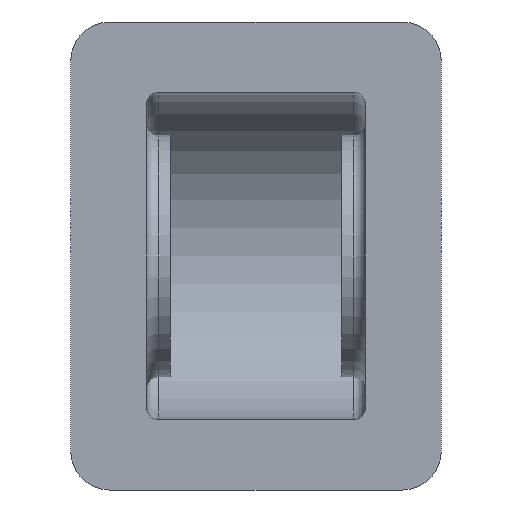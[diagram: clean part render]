
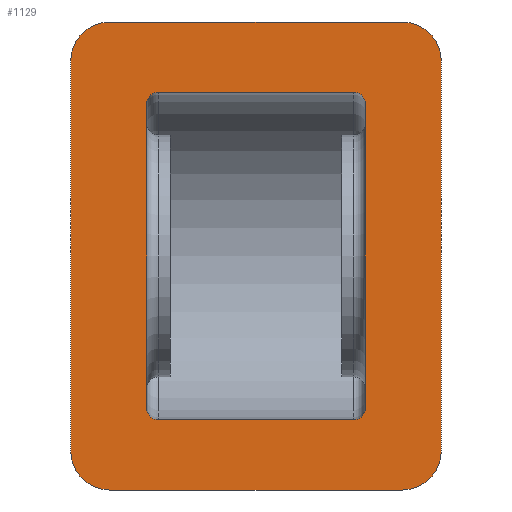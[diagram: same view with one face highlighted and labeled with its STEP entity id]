
A CAD part, front view. The second image highlights one B-rep face of the part: STEP entity #1129.
In plain terms, the highlighted planar face has unit normal (0, -1, 0).
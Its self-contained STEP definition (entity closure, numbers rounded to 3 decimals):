
#16=LINE('',#1791,#68);
#20=LINE('',#1811,#72);
#30=LINE('',#1864,#82);
#34=LINE('',#1873,#86);
#52=LINE('',#1993,#104);
#53=LINE('',#1997,#105);
#54=LINE('',#2002,#106);
#55=LINE('',#2007,#107);
#68=VECTOR('',#1406,78.);
#72=VECTOR('',#1426,78.);
#82=VECTOR('',#1486,75.);
#86=VECTOR('',#1496,100.);
#104=VECTOR('',#1640,75.);
#105=VECTOR('',#1643,100.);
#106=VECTOR('',#1648,50.);
#107=VECTOR('',#1653,50.);
#131=PLANE('',#1289);
#188=FACE_BOUND('',#409,.T.);
#293=FACE_OUTER_BOUND('',#408,.T.);
#408=EDGE_LOOP('',(#961,#962,#963,#964,#965,#966,#967,#968));
#409=EDGE_LOOP('',(#969,#970,#971,#972,#973,#974,#975,#976));
#477=CIRCLE('',#1225,10.);
#478=CIRCLE('',#1228,10.);
#513=CIRCLE('',#1290,10.);
#514=CIRCLE('',#1291,10.);
#515=CIRCLE('',#1292,3.);
#516=CIRCLE('',#1293,3.);
#517=CIRCLE('',#1294,3.);
#518=CIRCLE('',#1295,3.);
#549=VERTEX_POINT('',#1788);
#550=VERTEX_POINT('',#1790);
#555=VERTEX_POINT('',#1804);
#558=VERTEX_POINT('',#1809);
#575=VERTEX_POINT('',#1861);
#576=VERTEX_POINT('',#1863);
#577=VERTEX_POINT('',#1867);
#578=VERTEX_POINT('',#1871);
#579=VERTEX_POINT('',#1875);
#617=VERTEX_POINT('',#1992);
#618=VERTEX_POINT('',#1994);
#619=VERTEX_POINT('',#1996);
#620=VERTEX_POINT('',#1999);
#621=VERTEX_POINT('',#2001);
#622=VERTEX_POINT('',#2004);
#623=VERTEX_POINT('',#2006);
#649=EDGE_CURVE('',#550,#549,#16,.T.);
#658=EDGE_CURVE('',#555,#558,#20,.T.);
#684=EDGE_CURVE('',#575,#576,#30,.T.);
#687=EDGE_CURVE('',#577,#575,#477,.T.);
#689=EDGE_CURVE('',#578,#577,#34,.T.);
#691=EDGE_CURVE('',#579,#578,#478,.T.);
#742=EDGE_CURVE('',#617,#579,#52,.T.);
#743=EDGE_CURVE('',#618,#617,#513,.T.);
#744=EDGE_CURVE('',#619,#618,#53,.T.);
#745=EDGE_CURVE('',#576,#619,#514,.T.);
#746=EDGE_CURVE('',#549,#620,#515,.T.);
#747=EDGE_CURVE('',#620,#621,#54,.T.);
#748=EDGE_CURVE('',#621,#555,#516,.T.);
#749=EDGE_CURVE('',#558,#622,#517,.T.);
#750=EDGE_CURVE('',#622,#623,#55,.T.);
#751=EDGE_CURVE('',#623,#550,#518,.T.);
#961=ORIENTED_EDGE('',*,*,#691,.F.);
#962=ORIENTED_EDGE('',*,*,#742,.F.);
#963=ORIENTED_EDGE('',*,*,#743,.F.);
#964=ORIENTED_EDGE('',*,*,#744,.F.);
#965=ORIENTED_EDGE('',*,*,#745,.F.);
#966=ORIENTED_EDGE('',*,*,#684,.F.);
#967=ORIENTED_EDGE('',*,*,#687,.F.);
#968=ORIENTED_EDGE('',*,*,#689,.F.);
#969=ORIENTED_EDGE('',*,*,#746,.T.);
#970=ORIENTED_EDGE('',*,*,#747,.T.);
#971=ORIENTED_EDGE('',*,*,#748,.T.);
#972=ORIENTED_EDGE('',*,*,#658,.T.);
#973=ORIENTED_EDGE('',*,*,#749,.T.);
#974=ORIENTED_EDGE('',*,*,#750,.T.);
#975=ORIENTED_EDGE('',*,*,#751,.T.);
#976=ORIENTED_EDGE('',*,*,#649,.T.);
#1129=ADVANCED_FACE('',(#293,#188),#131,.T.);
#1225=AXIS2_PLACEMENT_3D('',#1869,#1491,#1492);
#1228=AXIS2_PLACEMENT_3D('',#1877,#1500,#1501);
#1289=AXIS2_PLACEMENT_3D('',#1991,#1638,#1639);
#1290=AXIS2_PLACEMENT_3D('',#1995,#1641,#1642);
#1291=AXIS2_PLACEMENT_3D('',#1998,#1644,#1645);
#1292=AXIS2_PLACEMENT_3D('',#2000,#1646,#1647);
#1293=AXIS2_PLACEMENT_3D('',#2003,#1649,#1650);
#1294=AXIS2_PLACEMENT_3D('',#2005,#1651,#1652);
#1295=AXIS2_PLACEMENT_3D('',#2008,#1654,#1655);
#1406=DIRECTION('',(0.,0.,-1.));
#1426=DIRECTION('',(0.,0.,1.));
#1486=DIRECTION('',(1.,0.,0.));
#1491=DIRECTION('center_axis',(0.,1.,0.));
#1492=DIRECTION('ref_axis',(-0.707,0.,0.707));
#1496=DIRECTION('',(0.,0.,1.));
#1500=DIRECTION('center_axis',(0.,1.,0.));
#1501=DIRECTION('ref_axis',(-0.707,0.,-0.707));
#1638=DIRECTION('center_axis',(0.,-1.,0.));
#1639=DIRECTION('ref_axis',(0.,0.,-1.));
#1640=DIRECTION('',(-1.,0.,0.));
#1641=DIRECTION('center_axis',(0.,1.,0.));
#1642=DIRECTION('ref_axis',(0.707,0.,-0.707));
#1643=DIRECTION('',(0.,0.,-1.));
#1644=DIRECTION('center_axis',(0.,1.,0.));
#1645=DIRECTION('ref_axis',(0.707,0.,0.707));
#1646=DIRECTION('center_axis',(0.,1.,0.));
#1647=DIRECTION('ref_axis',(0.707,0.,-0.707));
#1648=DIRECTION('',(-1.,0.,0.));
#1649=DIRECTION('center_axis',(0.,1.,0.));
#1650=DIRECTION('ref_axis',(-0.707,0.,-0.707));
#1651=DIRECTION('center_axis',(0.,1.,0.));
#1652=DIRECTION('ref_axis',(-0.707,0.,0.707));
#1653=DIRECTION('',(1.,0.,0.));
#1654=DIRECTION('center_axis',(0.,1.,0.));
#1655=DIRECTION('ref_axis',(0.707,0.,0.707));
#1788=CARTESIAN_POINT('',(28.,-25.,-39.));
#1790=CARTESIAN_POINT('',(28.,-25.,39.));
#1791=CARTESIAN_POINT('',(28.,-25.,25.5));
#1804=CARTESIAN_POINT('',(-28.,-25.,-39.));
#1809=CARTESIAN_POINT('',(-28.,-25.,39.));
#1811=CARTESIAN_POINT('',(-28.,-25.,25.5));
#1861=CARTESIAN_POINT('',(-37.5,-25.,60.));
#1863=CARTESIAN_POINT('',(37.5,-25.,60.));
#1864=CARTESIAN_POINT('',(-47.5,-25.,60.));
#1867=CARTESIAN_POINT('',(-47.5,-25.,50.));
#1869=CARTESIAN_POINT('Origin',(-37.5,-25.,50.));
#1871=CARTESIAN_POINT('',(-47.5,-25.,-50.));
#1873=CARTESIAN_POINT('',(-47.5,-25.,-60.));
#1875=CARTESIAN_POINT('',(-37.5,-25.,-60.));
#1877=CARTESIAN_POINT('Origin',(-37.5,-25.,-50.));
#1991=CARTESIAN_POINT('Origin',(0.,-25.,51.));
#1992=CARTESIAN_POINT('',(37.5,-25.,-60.));
#1993=CARTESIAN_POINT('',(47.5,-25.,-60.));
#1994=CARTESIAN_POINT('',(47.5,-25.,-50.));
#1995=CARTESIAN_POINT('Origin',(37.5,-25.,-50.));
#1996=CARTESIAN_POINT('',(47.5,-25.,50.));
#1997=CARTESIAN_POINT('',(47.5,-25.,60.));
#1998=CARTESIAN_POINT('Origin',(37.5,-25.,50.));
#1999=CARTESIAN_POINT('',(25.,-25.,-42.));
#2000=CARTESIAN_POINT('Origin',(25.,-25.,-39.));
#2001=CARTESIAN_POINT('',(-25.,-25.,-42.));
#2002=CARTESIAN_POINT('',(0.,-25.,-42.));
#2003=CARTESIAN_POINT('Origin',(-25.,-25.,-39.));
#2004=CARTESIAN_POINT('',(-25.,-25.,42.));
#2005=CARTESIAN_POINT('Origin',(-25.,-25.,39.));
#2006=CARTESIAN_POINT('',(25.,-25.,42.));
#2007=CARTESIAN_POINT('',(0.,-25.,42.));
#2008=CARTESIAN_POINT('Origin',(25.,-25.,39.));
